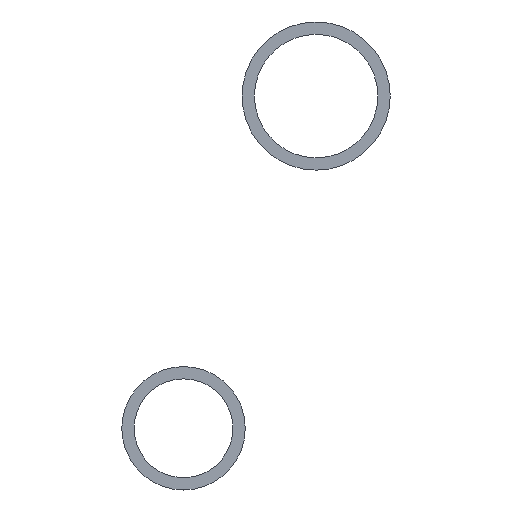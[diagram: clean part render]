
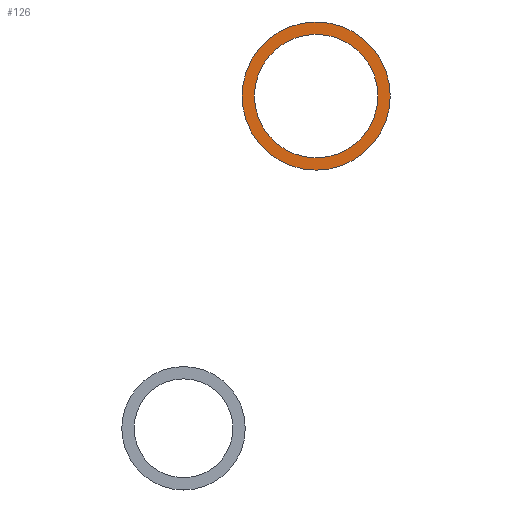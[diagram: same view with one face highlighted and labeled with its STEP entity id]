
A CAD part, left-side view. The second image highlights one B-rep face of the part: STEP entity #126.
In plain terms, the highlighted planar face has unit normal (-1, 0, 0).
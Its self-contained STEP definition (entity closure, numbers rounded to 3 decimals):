
#32=FACE_BOUND('',#52,.T.);
#36=PLANE('',#166);
#42=FACE_OUTER_BOUND('',#51,.T.);
#51=EDGE_LOOP('',(#105));
#52=EDGE_LOOP('',(#106));
#68=CIRCLE('',#161,5.);
#70=CIRCLE('',#164,6.);
#76=VERTEX_POINT('',#235);
#78=VERTEX_POINT('',#241);
#85=EDGE_CURVE('',#76,#76,#68,.T.);
#88=EDGE_CURVE('',#78,#78,#70,.T.);
#105=ORIENTED_EDGE('',*,*,#88,.F.);
#106=ORIENTED_EDGE('',*,*,#85,.F.);
#126=ADVANCED_FACE('',(#42,#32),#36,.F.);
#161=AXIS2_PLACEMENT_3D('',#237,#190,#191);
#164=AXIS2_PLACEMENT_3D('',#243,#197,#198);
#166=AXIS2_PLACEMENT_3D('',#245,#201,#202);
#190=DIRECTION('center_axis',(-1.,0.,0.));
#191=DIRECTION('ref_axis',(0.,0.,-1.));
#197=DIRECTION('center_axis',(1.,0.,0.));
#198=DIRECTION('ref_axis',(0.,0.,-1.));
#201=DIRECTION('center_axis',(1.,0.,0.));
#202=DIRECTION('ref_axis',(0.,0.,-1.));
#235=CARTESIAN_POINT('',(0.,-15.702,73.579));
#237=CARTESIAN_POINT('Origin',(0.,-15.702,68.579));
#241=CARTESIAN_POINT('',(0.,-15.702,74.579));
#243=CARTESIAN_POINT('Origin',(0.,-15.702,68.579));
#245=CARTESIAN_POINT('Origin',(0.,-15.702,68.579));
